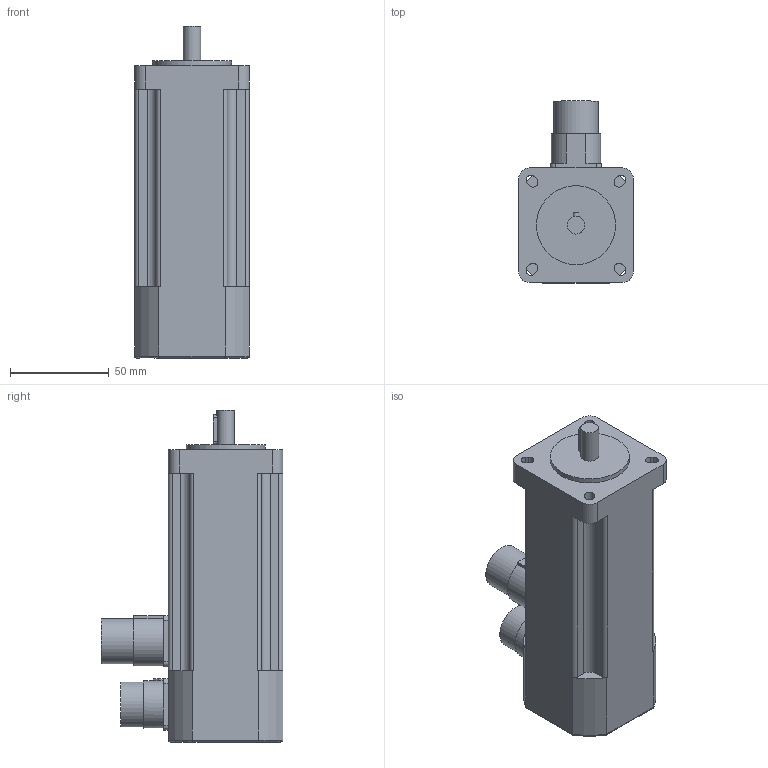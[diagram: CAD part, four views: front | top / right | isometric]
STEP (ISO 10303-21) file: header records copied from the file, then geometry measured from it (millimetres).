
FILE_DESCRIPTION(/* description */ (''),/* implementation_level */ '2;1');
FILE_NAME(/* name */ '\\Lafnas01\disegni\Archivi Lafert\3D\CAD 3D\MODELLI\Assiemi clienti\Serad\Modelli 3D Serad\B28I\Resolver\Res Without Brake\B28D6Ixx4A050033.ipt.stp',/* time_stamp */ '2015-09-07T10:48:17+02:00',/* author */ ('Pastrello Ylenia'),/* organization */ (''),/* preprocessor_version */ 'ST-DEVELOPER v15.6',/* originating_system */ 'Autodesk Inventor 2015',/* authorisation */ '');
FILE_SCHEMA (('AUTOMOTIVE_DESIGN { 1 0 10303 214 3 1 1 }'));
Length unit declared in the file: millimetre
Products named in the file (1): B28D6Ixx4A050033
Bounding box: 58 x 92 x 168 mm (x, y, z)
Volume: 470300.8 mm3; surface area: 45267.2 mm2
Topology: 1 solids, 1 shells, 133 faces, 356 edges, 231 vertices
Faces by surface type: plane 71, cylinder 58, torus 4
Full cylindrical faces by diameter (mm): 9 x1, 22.7 x2, 24 x1, 40 x1
Entity records: 4247 total; most frequent: CARTESIAN_POINT 847, DIRECTION 719, ORIENTED_EDGE 696, EDGE_CURVE 347, AXIS2_PLACEMENT_3D 250, VERTEX_POINT 228, LINE 219, VECTOR 219
